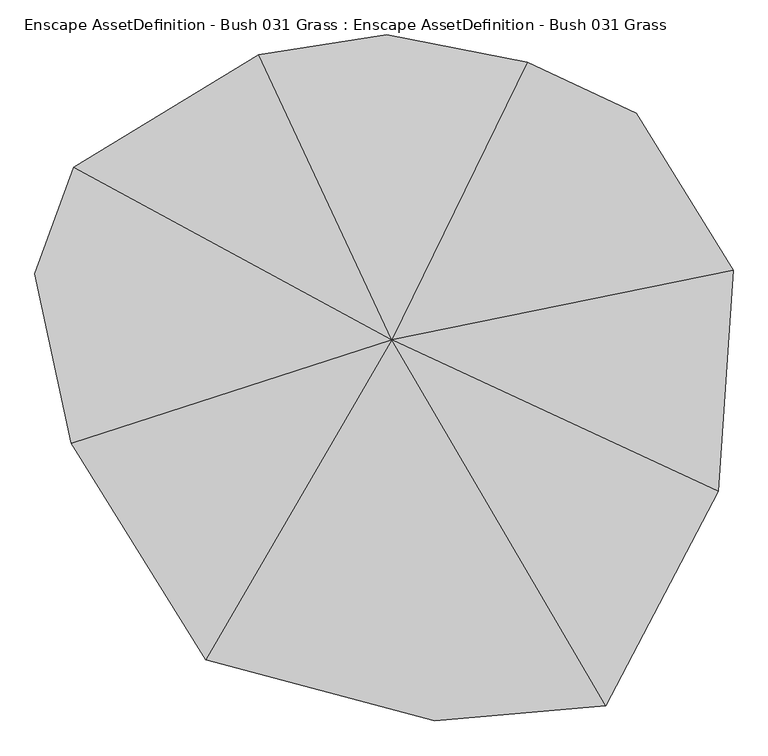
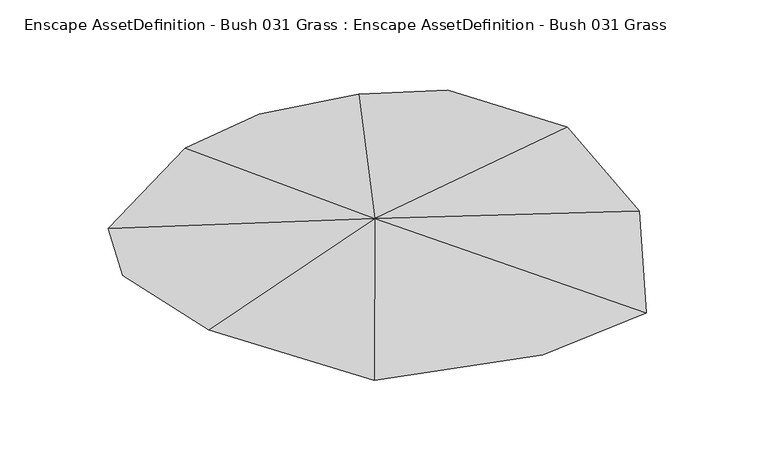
"""IFC4 building model written with IfcOpenShell, lengths in millimetres: geographic element geometry, Enscape AssetDefinition - Bush 031 Grass : Enscape AssetDefinition - Bush 031 Grass."""

from ifc_helpers import new_model, si_unit, origin, place, context, project, spatial, triangles, source, transform, mapped, element, save


def enscape_assetdefinition_bush_031_grass_enscape_dda4791a(model_context):
    return source(origin(), model_context, "Body", "Tessellation", [
        triangles([(441.1052702, -664.258655, 0.0010009), (13.0083902, 68.4909729, 20.0175282), (98.9206244, -694.6182844, 0.0), (-358.6801051, -572.1240171, 0.0), (-627.9628326, -139.1748806, 0.0), (-700.7596247, 200.0842079, 0.0010009), (-623.1176342, 413.4020193, 0.0), (-252.5801678, 637.9996473, 0.0010009), (3.3639457, 677.8845675, 0.0), (502.5780805, 521.3745712, 0.0), (283.890575, 623.3508322, 0.0), (695.9453836, 206.9792449, 0.0), (666.2443623, -235.51424, 0.0)], [[1, 13, 2], [12, 13, 1], [13, 12, 2], [12, 10, 2], [11, 12, 1], [11, 10, 12], [11, 9, 2], [10, 11, 2], [8, 9, 11], [9, 8, 2], [8, 7, 2], [6, 11, 1], [6, 8, 11], [6, 7, 8], [7, 6, 2], [6, 5, 2], [4, 6, 1], [4, 5, 6], [5, 4, 2], [3, 4, 1], [4, 3, 2], [3, 1, 2]]),
    ])


if __name__ == "__main__":
    model = new_model("IFC4")
    model_context = context("Model", 3, world=origin())
    ifc_project = project(units=[si_unit("LENGTHUNIT", "METRE", prefix="MILLI")], contexts=[model_context])
    site = spatial("IfcSite", under=ifc_project)
    building = spatial("IfcBuilding", under=site)
    placement = place(None, origin())
    enscape_assetdefinition_bush_031_grass_enscape_shape = enscape_assetdefinition_bush_031_grass_enscape_dda4791a(model_context)
    element("IfcGeographicElement", 1, ObjectType="Enscape AssetDefinition - Bush 031 Grass : Enscape AssetDefinition - Bush 031 Grass", at=placement, inside=building, context=model_context, shape_type="MappedRepresentation", body=[
        mapped(enscape_assetdefinition_bush_031_grass_enscape_shape, transform((0.0, 0.0, 0.0), x_axis=(1.0, 0.0, 0.0), y_axis=(0.0, 1.0, 0.0), z_axis=(0.0, 0.0, 1.0))),
    ])
    save(model, "model.ifc")
